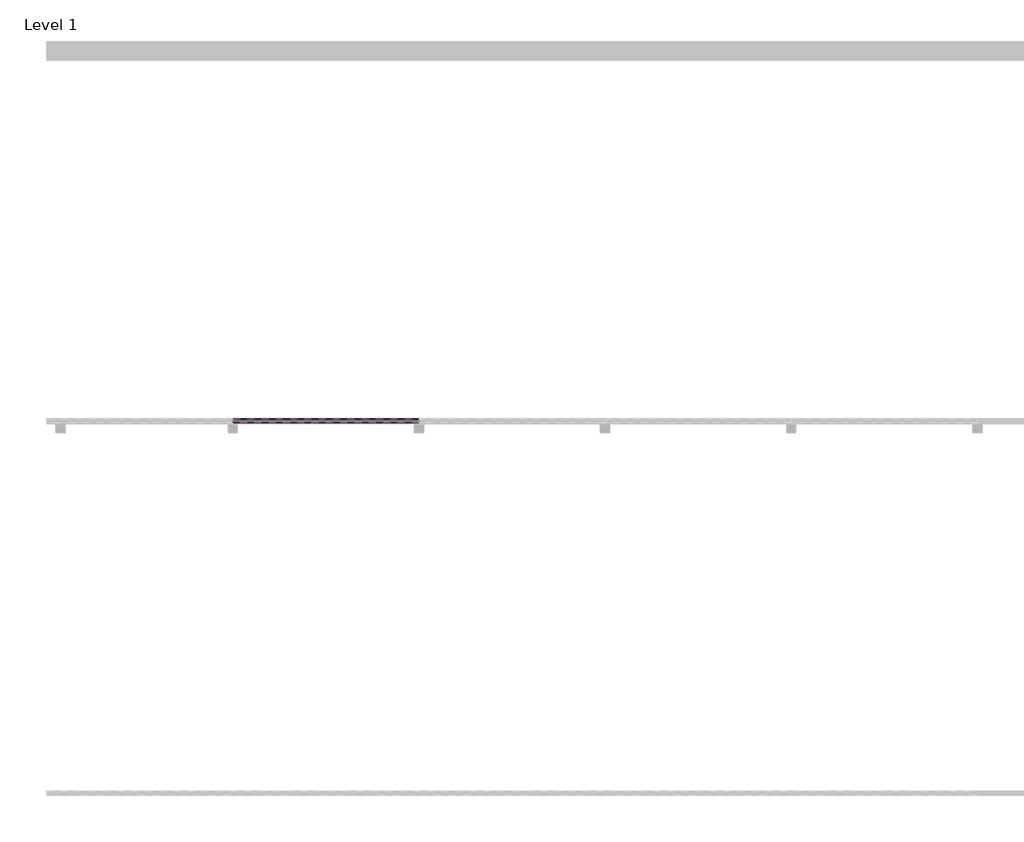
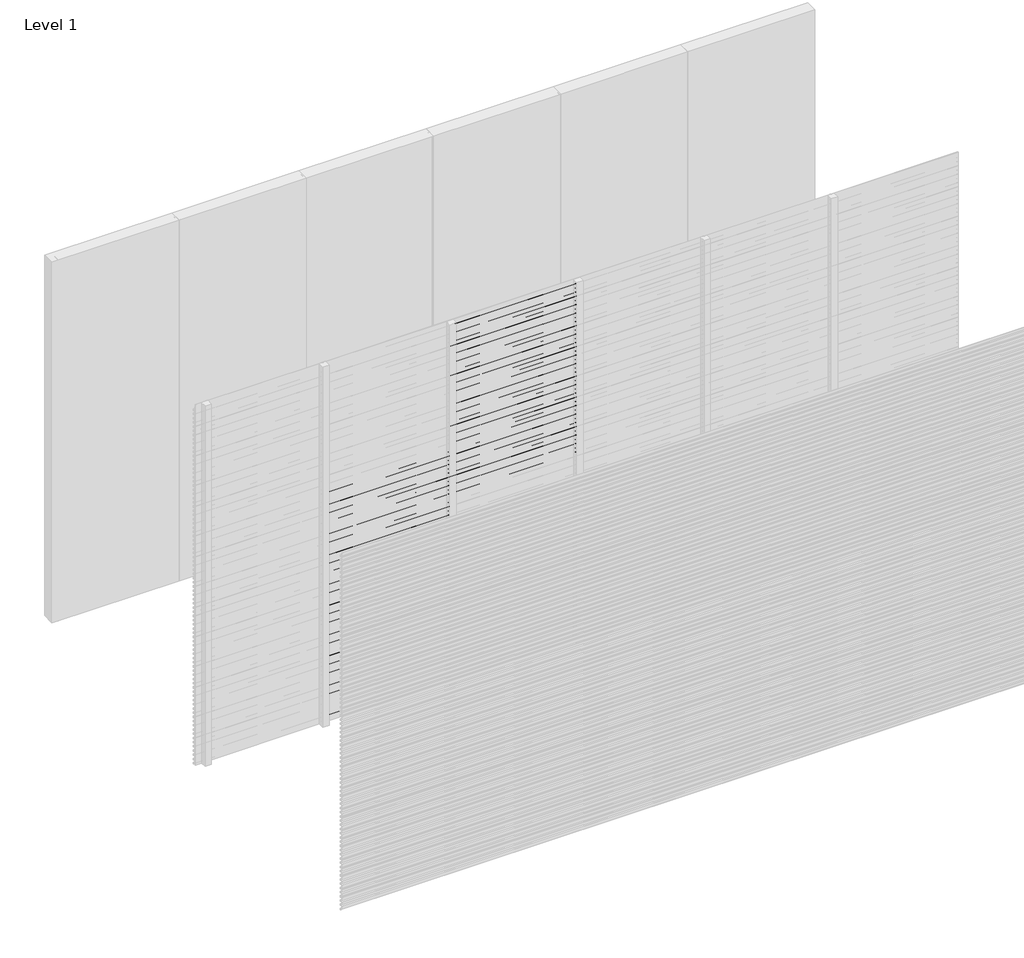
# One storey, part 10 of 25: 97 proxies.
"""IFC4 building model written with IfcOpenShell, lengths in millimetres."""

import ifcopenshell
import ifcopenshell.guid

model = None  # the IFC model being written
_history = None  # IfcOwnerHistory: only IFC2X3 demands one
_inside = {}  # id of a spatial element -> (the spatial element, [elements in it])
_under = {}  # id of a project, library or spatial element -> (it, [spatial elements below it])
_declared = {}  # id of a project -> (the project, [libraries it declares])
_typed = {}  # id of a type object -> (the type object, [elements of that type])
_made_of = {}  # id of a material, layer set ... -> (it, [elements and type objects made of it])


def new_model(schema):
    """Start an empty IFC model of exactly this schema.

    Asked for "IFC4X3", IfcOpenShell would pick the latest addendum, in which some entities
    have other attributes; the version numbers below select the first issue.
    IFC2X3 requires an IfcOwnerHistory on every rooted entity: one is made here for all.
    """
    global model, _history
    if schema == "IFC4X3":
        model = ifcopenshell.file(schema_version=(4, 3, 0, 0))
    else:
        model = ifcopenshell.file(schema=schema)
    _inside.clear()
    _under.clear()
    _declared.clear()
    _typed.clear()
    _made_of.clear()
    _history = None
    if model.schema == "IFC2X3":
        org = make("IfcOrganization", Name="unknown")
        user = make(
            "IfcPersonAndOrganization",
            ThePerson=make("IfcPerson", FamilyName="unknown"),
            TheOrganization=org,
        )
        app = make(
            "IfcApplication",
            ApplicationDeveloper=org,
            Version="unknown",
            ApplicationFullName="unknown",
            ApplicationIdentifier="unknown",
        )
        _history = make(
            "IfcOwnerHistory",
            OwningUser=user,
            OwningApplication=app,
            ChangeAction="ADDED",
            CreationDate=0,
        )
    return model


def make(cls, **values):
    """One entity of the class cls with the attributes given. An attribute that is None is left unset."""
    return model.create_entity(
        cls, **{name: value for name, value in values.items() if value is not None}
    )


def rooted(cls, **values):
    """An entity with a GlobalId (a new one), such as an element, a storey or a relation."""
    return make(cls, GlobalId=ifcopenshell.guid.new(), OwnerHistory=_history, **values)


def si_unit(unit_type, name, prefix=None):
    """IfcSIUnit, for example si_unit("LENGTHUNIT", "METRE", prefix="MILLI")."""
    return make("IfcSIUnit", UnitType=unit_type, Prefix=prefix, Name=name)


def assignment(units):
    """IfcUnitAssignment: the units of a project."""
    return None if units is None else make("IfcUnitAssignment", Units=units)


def point(xyz):
    """IfcCartesianPoint."""
    return None if xyz is None else make("IfcCartesianPoint", Coordinates=xyz)


def direction(xyz):
    """IfcDirection."""
    return None if xyz is None else make("IfcDirection", DirectionRatios=xyz)


def frame(location, z_axis=None, x_axis=None):
    """IfcAxis2Placement3D, a coordinate frame: its origin and axes. An axis left out is left unset."""
    return make(
        "IfcAxis2Placement3D",
        Location=point(location),
        Axis=direction(z_axis),
        RefDirection=direction(x_axis),
    )


def origin():
    """The frame at (0, 0, 0) with its axes left unset."""
    return frame((0.0, 0.0, 0.0))


def place(relative_to, where):
    """IfcLocalPlacement: puts the frame where relative to a parent placement (None: the world)."""
    return make(
        "IfcLocalPlacement", PlacementRelTo=relative_to, RelativePlacement=where
    )


def context(
    kind, dimensions, precision=None, world=None, true_north=None, identifier=None
):
    """IfcGeometricRepresentationContext, for example the 3D "Model" context."""
    return make(
        "IfcGeometricRepresentationContext",
        ContextIdentifier=identifier,
        ContextType=kind,
        CoordinateSpaceDimension=dimensions,
        Precision=precision,
        WorldCoordinateSystem=world,
        TrueNorth=true_north,
    )


def project(units=None, contexts=None):
    """IfcProject with its units and contexts."""
    return rooted(
        "IfcProject",
        Name="project",
        RepresentationContexts=contexts,
        UnitsInContext=assignment(units),
    )


def spatial(cls, under=None, at=None, **own):
    """A site, building, storey or space (cls), placed at a placement, below another one or the project."""
    s = rooted(cls, ObjectPlacement=at, **own)
    if under is not None:
        _under.setdefault(under.id(), (under, []))[1].append(s)
    return s


def polyline(points):
    """IfcPolyline through the points."""
    return make("IfcPolyline", Points=[point(p) for p in points])


def outline(outer, holes=None, kind="AREA"):
    """IfcArbitraryClosedProfileDef: a profile drawn as a closed curve; with holes, ...WithVoids."""
    if holes is None:
        return make("IfcArbitraryClosedProfileDef", ProfileType=kind, OuterCurve=outer)
    return make(
        "IfcArbitraryProfileDefWithVoids",
        ProfileType=kind,
        OuterCurve=outer,
        InnerCurves=holes,
    )


def extrude(swept, where, along, depth):
    """IfcExtrudedAreaSolid: the profile swept, set in the frame where, extruded along a direction by depth."""
    return make(
        "IfcExtrudedAreaSolid",
        SweptArea=swept,
        Position=where,
        ExtrudedDirection=direction(along),
        Depth=depth,
    )


def shape(context_of_items, identifier, shape_type, items):
    """IfcShapeRepresentation: the items that make up one representation, for example the "Body"."""
    return make(
        "IfcShapeRepresentation",
        ContextOfItems=context_of_items,
        RepresentationIdentifier=identifier,
        RepresentationType=shape_type,
        Items=items,
    )


def made_of(thing, what):
    """Note that an element or type object is made of a material, layer set ...; save() writes the relation."""
    if what is not None:
        _made_of.setdefault(what.id(), (what, []))[1].append(thing)
    return thing


def element(
    cls,
    number,
    at=None,
    inside=None,
    cuts=None,
    type_object=None,
    material=None,
    context=None,
    identifier="Body",
    shape_type=None,
    held_by="IfcProductDefinitionShape",
    body=None,
    shapes=None,
    **own,
):
    """One element of the class cls, such as IfcWall. Its Tag is "e" and its number.

    at: its placement. inside: the storey or other place that contains it. cuts: it is an
    opening in that element (IfcRelVoidsElement). A single representation is given by context,
    identifier, shape_type and body (its items); several are given by shapes. held_by: the class
    of the entity that holds the representations. save() writes the other relations.
    """
    e = rooted(cls, Tag="e%d" % number, ObjectPlacement=at, **own)
    if body is not None:
        shapes = [shape(context, identifier, shape_type, body)]
    if shapes is not None:
        e.Representation = make(held_by, Representations=shapes)
    if inside is not None:
        _inside.setdefault(inside.id(), (inside, []))[1].append(e)
    if cuts is not None:
        rooted(
            "IfcRelVoidsElement", RelatingBuildingElement=cuts, RelatedOpeningElement=e
        )
    if type_object is not None:
        _typed.setdefault(type_object.id(), (type_object, []))[1].append(e)
    return made_of(e, material)


def aggregate(whole, parts):
    """IfcRelAggregates: a whole, such as a stair, and the parts it consists of."""
    return rooted("IfcRelAggregates", RelatingObject=whole, RelatedObjects=parts)


def save(model, path):
    """Write the relations noted so far, then the file.

    IfcRelAggregates (storeys below a building ...), IfcRelContainedInSpatialStructure (elements
    in a storey), IfcRelDefinesByType, IfcRelAssociatesMaterial and IfcRelDeclares: one each for
    every whole, place, type object, material and project.
    """
    for whole, parts in _under.values():
        aggregate(whole, parts)
    for where, things in _inside.values():
        rooted(
            "IfcRelContainedInSpatialStructure",
            RelatedElements=things,
            RelatingStructure=where,
        )
    for kind, things in _typed.values():
        rooted("IfcRelDefinesByType", RelatedObjects=things, RelatingType=kind)
    for what, things in _made_of.values():
        rooted("IfcRelAssociatesMaterial", RelatedObjects=things, RelatingMaterial=what)
    for by, libraries in _declared.values():
        rooted("IfcRelDeclares", RelatingContext=by, RelatedDefinitions=libraries)
    model.write(path)


model = new_model("IFC4")

# Units and contexts
model_context = context("Model", 3, world=origin())
ifc_project = project(units=[si_unit("LENGTHUNIT", "METRE", prefix="MILLI")], contexts=[model_context])

# Site, building, storey
site = spatial("IfcSite", under=ifc_project)
building = spatial("IfcBuilding", under=site)
storey = spatial("IfcBuildingStorey", under=building, Name="Level 1", Elevation=0.0)

# Proxies
placement = place(None, origin())
element("IfcBuildingElementProxy", 1, Name="Wall Sweeps", at=placement, inside=storey, context=model_context, shape_type="SweptSolid", body=[
    extrude(outline(polyline([(-11995.0, 1960.0), (-11995.0, 1948.942893), (-11976.0, 1933.0), (-11976.0, 1920.0), (-11997.0, 1937.6210923), (-11997.0, 1960.0), (-11995.0, 1960.0)])), frame((1000.0, 0.0, 0.0), z_axis=(1.0, 0.0, 0.0), x_axis=(0.0, 1.0, 0.0)), (0.0, 0.0, 1.0), 1000.0),
])
element("IfcBuildingElementProxy", 2, Name="Wall Sweeps", at=placement, inside=storey, context=model_context, shape_type="SweptSolid", body=[
    extrude(outline(polyline([(-11995.0, 1925.0), (-11995.0, 1913.942893), (-11976.0, 1898.0), (-11976.0, 1885.0), (-11997.0, 1902.6210923), (-11997.0, 1925.0), (-11995.0, 1925.0)])), frame((1000.0, 0.0, 0.0), z_axis=(1.0, 0.0, 0.0), x_axis=(0.0, 1.0, 0.0)), (0.0, 0.0, 1.0), 1000.0),
])
element("IfcBuildingElementProxy", 3, Name="Wall Sweeps", at=placement, inside=storey, context=model_context, shape_type="SweptSolid", body=[
    extrude(outline(polyline([(-11995.0, 1890.0), (-11995.0, 1878.942893), (-11976.0, 1863.0), (-11976.0, 1850.0), (-11997.0, 1867.6210923), (-11997.0, 1890.0), (-11995.0, 1890.0)])), frame((1000.0, 0.0, 0.0), z_axis=(1.0, 0.0, 0.0), x_axis=(0.0, 1.0, 0.0)), (0.0, 0.0, 1.0), 1000.0),
])
element("IfcBuildingElementProxy", 4, Name="Wall Sweeps", at=placement, inside=storey, context=model_context, shape_type="SweptSolid", body=[
    extrude(outline(polyline([(-11995.0, 1855.0), (-11995.0, 1843.942893), (-11976.0, 1828.0), (-11976.0, 1815.0), (-11997.0, 1832.6210923), (-11997.0, 1855.0), (-11995.0, 1855.0)])), frame((1000.0, 0.0, 0.0), z_axis=(1.0, 0.0, 0.0), x_axis=(0.0, 1.0, 0.0)), (0.0, 0.0, 1.0), 1000.0),
])
element("IfcBuildingElementProxy", 5, Name="Wall Sweeps", at=placement, inside=storey, context=model_context, shape_type="SweptSolid", body=[
    extrude(outline(polyline([(-11995.0, 1820.0), (-11995.0, 1808.942893), (-11976.0, 1793.0), (-11976.0, 1780.0), (-11997.0, 1797.6210923), (-11997.0, 1820.0), (-11995.0, 1820.0)])), frame((1000.0, 0.0, 0.0), z_axis=(1.0, 0.0, 0.0), x_axis=(0.0, 1.0, 0.0)), (0.0, 0.0, 1.0), 1000.0),
])
element("IfcBuildingElementProxy", 6, Name="Wall Sweeps", at=placement, inside=storey, context=model_context, shape_type="SweptSolid", body=[
    extrude(outline(polyline([(-11995.0, 1785.0), (-11995.0, 1773.942893), (-11976.0, 1758.0), (-11976.0, 1745.0), (-11997.0, 1762.6210923), (-11997.0, 1785.0), (-11995.0, 1785.0)])), frame((1000.0, 0.0, 0.0), z_axis=(1.0, 0.0, 0.0), x_axis=(0.0, 1.0, 0.0)), (0.0, 0.0, 1.0), 1000.0),
])
element("IfcBuildingElementProxy", 7, Name="Wall Sweeps", at=placement, inside=storey, context=model_context, shape_type="SweptSolid", body=[
    extrude(outline(polyline([(-11995.0, 1750.0), (-11995.0, 1738.942893), (-11976.0, 1723.0), (-11976.0, 1710.0), (-11997.0, 1727.6210923), (-11997.0, 1750.0), (-11995.0, 1750.0)])), frame((1000.0, 0.0, 0.0), z_axis=(1.0, 0.0, 0.0), x_axis=(0.0, 1.0, 0.0)), (0.0, 0.0, 1.0), 1000.0),
])
element("IfcBuildingElementProxy", 8, Name="Wall Sweeps", at=placement, inside=storey, context=model_context, shape_type="SweptSolid", body=[
    extrude(outline(polyline([(-11995.0, 1715.0), (-11995.0, 1703.942893), (-11976.0, 1688.0), (-11976.0, 1675.0), (-11997.0, 1692.6210923), (-11997.0, 1715.0), (-11995.0, 1715.0)])), frame((1000.0, 0.0, 0.0), z_axis=(1.0, 0.0, 0.0), x_axis=(0.0, 1.0, 0.0)), (0.0, 0.0, 1.0), 1000.0),
])
element("IfcBuildingElementProxy", 9, Name="Wall Sweeps", at=placement, inside=storey, context=model_context, shape_type="SweptSolid", body=[
    extrude(outline(polyline([(-11995.0, 1680.0), (-11995.0, 1668.942893), (-11976.0, 1653.0), (-11976.0, 1640.0), (-11997.0, 1657.6210923), (-11997.0, 1680.0), (-11995.0, 1680.0)])), frame((1000.0, 0.0, 0.0), z_axis=(1.0, 0.0, 0.0), x_axis=(0.0, 1.0, 0.0)), (0.0, 0.0, 1.0), 1000.0),
])
element("IfcBuildingElementProxy", 10, Name="Wall Sweeps", at=placement, inside=storey, context=model_context, shape_type="SweptSolid", body=[
    extrude(outline(polyline([(-11995.0, 1645.0), (-11995.0, 1633.942893), (-11976.0, 1618.0), (-11976.0, 1605.0), (-11997.0, 1622.6210923), (-11997.0, 1645.0), (-11995.0, 1645.0)])), frame((1000.0, 0.0, 0.0), z_axis=(1.0, 0.0, 0.0), x_axis=(0.0, 1.0, 0.0)), (0.0, 0.0, 1.0), 1000.0),
])
element("IfcBuildingElementProxy", 11, Name="Wall Sweeps", at=placement, inside=storey, context=model_context, shape_type="SweptSolid", body=[
    extrude(outline(polyline([(-11995.0, 1610.0), (-11995.0, 1598.942893), (-11976.0, 1583.0), (-11976.0, 1570.0), (-11997.0, 1587.6210923), (-11997.0, 1610.0), (-11995.0, 1610.0)])), frame((1000.0, 0.0, 0.0), z_axis=(1.0, 0.0, 0.0), x_axis=(0.0, 1.0, 0.0)), (0.0, 0.0, 1.0), 1000.0),
])
element("IfcBuildingElementProxy", 12, Name="Wall Sweeps", at=placement, inside=storey, context=model_context, shape_type="SweptSolid", body=[
    extrude(outline(polyline([(-11995.0, 1575.0), (-11995.0, 1563.942893), (-11976.0, 1548.0), (-11976.0, 1535.0), (-11997.0, 1552.6210923), (-11997.0, 1575.0), (-11995.0, 1575.0)])), frame((1000.0, 0.0, 0.0), z_axis=(1.0, 0.0, 0.0), x_axis=(0.0, 1.0, 0.0)), (0.0, 0.0, 1.0), 1000.0),
])
element("IfcBuildingElementProxy", 13, Name="Wall Sweeps", at=placement, inside=storey, context=model_context, shape_type="SweptSolid", body=[
    extrude(outline(polyline([(-11995.0, 1540.0), (-11995.0, 1528.942893), (-11976.0, 1513.0), (-11976.0, 1500.0), (-11997.0, 1517.6210923), (-11997.0, 1540.0), (-11995.0, 1540.0)])), frame((1000.0, 0.0, 0.0), z_axis=(1.0, 0.0, 0.0), x_axis=(0.0, 1.0, 0.0)), (0.0, 0.0, 1.0), 1000.0),
])
element("IfcBuildingElementProxy", 14, Name="Wall Sweeps", at=placement, inside=storey, context=model_context, shape_type="SweptSolid", body=[
    extrude(outline(polyline([(-11995.0, 1505.0), (-11995.0, 1493.942893), (-11976.0, 1478.0), (-11976.0, 1465.0), (-11997.0, 1482.6210923), (-11997.0, 1505.0), (-11995.0, 1505.0)])), frame((1000.0, 0.0, 0.0), z_axis=(1.0, 0.0, 0.0), x_axis=(0.0, 1.0, 0.0)), (0.0, 0.0, 1.0), 1000.0),
])
element("IfcBuildingElementProxy", 15, Name="Wall Sweeps", at=placement, inside=storey, context=model_context, shape_type="SweptSolid", body=[
    extrude(outline(polyline([(-11995.0, 1470.0), (-11995.0, 1458.942893), (-11976.0, 1443.0), (-11976.0, 1430.0), (-11997.0, 1447.6210923), (-11997.0, 1470.0), (-11995.0, 1470.0)])), frame((1000.0, 0.0, 0.0), z_axis=(1.0, 0.0, 0.0), x_axis=(0.0, 1.0, 0.0)), (0.0, 0.0, 1.0), 1000.0),
])
element("IfcBuildingElementProxy", 16, Name="Wall Sweeps", at=placement, inside=storey, context=model_context, shape_type="SweptSolid", body=[
    extrude(outline(polyline([(-11995.0, 1435.0), (-11995.0, 1423.942893), (-11976.0, 1408.0), (-11976.0, 1395.0), (-11997.0, 1412.6210923), (-11997.0, 1435.0), (-11995.0, 1435.0)])), frame((1000.0, 0.0, 0.0), z_axis=(1.0, 0.0, 0.0), x_axis=(0.0, 1.0, 0.0)), (0.0, 0.0, 1.0), 1000.0),
])
element("IfcBuildingElementProxy", 17, Name="Wall Sweeps", at=placement, inside=storey, context=model_context, shape_type="SweptSolid", body=[
    extrude(outline(polyline([(-11995.0, 1400.0), (-11995.0, 1388.942893), (-11976.0, 1373.0), (-11976.0, 1360.0), (-11997.0, 1377.6210923), (-11997.0, 1400.0), (-11995.0, 1400.0)])), frame((1000.0, 0.0, 0.0), z_axis=(1.0, 0.0, 0.0), x_axis=(0.0, 1.0, 0.0)), (0.0, 0.0, 1.0), 1000.0),
])
element("IfcBuildingElementProxy", 18, Name="Wall Sweeps", at=placement, inside=storey, context=model_context, shape_type="SweptSolid", body=[
    extrude(outline(polyline([(-11995.0, 1365.0), (-11995.0, 1353.942893), (-11976.0, 1338.0), (-11976.0, 1325.0), (-11997.0, 1342.6210923), (-11997.0, 1365.0), (-11995.0, 1365.0)])), frame((1000.0, 0.0, 0.0), z_axis=(1.0, 0.0, 0.0), x_axis=(0.0, 1.0, 0.0)), (0.0, 0.0, 1.0), 1000.0),
])
element("IfcBuildingElementProxy", 19, Name="Wall Sweeps", at=placement, inside=storey, context=model_context, shape_type="SweptSolid", body=[
    extrude(outline(polyline([(-11995.0, 1330.0), (-11995.0, 1318.942893), (-11976.0, 1303.0), (-11976.0, 1290.0), (-11997.0, 1307.6210923), (-11997.0, 1330.0), (-11995.0, 1330.0)])), frame((1000.0, 0.0, 0.0), z_axis=(1.0, 0.0, 0.0), x_axis=(0.0, 1.0, 0.0)), (0.0, 0.0, 1.0), 1000.0),
])
element("IfcBuildingElementProxy", 20, Name="Wall Sweeps", at=placement, inside=storey, context=model_context, shape_type="SweptSolid", body=[
    extrude(outline(polyline([(-11995.0, 1295.0), (-11995.0, 1283.942893), (-11976.0, 1268.0), (-11976.0, 1255.0), (-11997.0, 1272.6210923), (-11997.0, 1295.0), (-11995.0, 1295.0)])), frame((1000.0, 0.0, 0.0), z_axis=(1.0, 0.0, 0.0), x_axis=(0.0, 1.0, 0.0)), (0.0, 0.0, 1.0), 1000.0),
])
element("IfcBuildingElementProxy", 21, Name="Wall Sweeps", at=placement, inside=storey, context=model_context, shape_type="SweptSolid", body=[
    extrude(outline(polyline([(-11995.0, 1260.0), (-11995.0, 1248.942893), (-11976.0, 1233.0), (-11976.0, 1220.0), (-11997.0, 1237.6210923), (-11997.0, 1260.0), (-11995.0, 1260.0)])), frame((1000.0, 0.0, 0.0), z_axis=(1.0, 0.0, 0.0), x_axis=(0.0, 1.0, 0.0)), (0.0, 0.0, 1.0), 1000.0),
])
element("IfcBuildingElementProxy", 22, Name="Wall Sweeps", at=placement, inside=storey, context=model_context, shape_type="SweptSolid", body=[
    extrude(outline(polyline([(-11995.0, 1225.0), (-11995.0, 1213.942893), (-11976.0, 1198.0), (-11976.0, 1185.0), (-11997.0, 1202.6210923), (-11997.0, 1225.0), (-11995.0, 1225.0)])), frame((1000.0, 0.0, 0.0), z_axis=(1.0, 0.0, 0.0), x_axis=(0.0, 1.0, 0.0)), (0.0, 0.0, 1.0), 1000.0),
])
element("IfcBuildingElementProxy", 23, Name="Wall Sweeps", at=placement, inside=storey, context=model_context, shape_type="SweptSolid", body=[
    extrude(outline(polyline([(-11995.0, 1190.0), (-11995.0, 1178.942893), (-11976.0, 1163.0), (-11976.0, 1150.0), (-11997.0, 1167.6210923), (-11997.0, 1190.0), (-11995.0, 1190.0)])), frame((1000.0, 0.0, 0.0), z_axis=(1.0, 0.0, 0.0), x_axis=(0.0, 1.0, 0.0)), (0.0, 0.0, 1.0), 1000.0),
])
element("IfcBuildingElementProxy", 24, Name="Wall Sweeps", at=placement, inside=storey, context=model_context, shape_type="SweptSolid", body=[
    extrude(outline(polyline([(-11995.0, 1155.0), (-11995.0, 1143.942893), (-11976.0, 1128.0), (-11976.0, 1115.0), (-11997.0, 1132.6210923), (-11997.0, 1155.0), (-11995.0, 1155.0)])), frame((1000.0, 0.0, 0.0), z_axis=(1.0, 0.0, 0.0), x_axis=(0.0, 1.0, 0.0)), (0.0, 0.0, 1.0), 1000.0),
])
element("IfcBuildingElementProxy", 25, Name="Wall Sweeps", at=placement, inside=storey, context=model_context, shape_type="SweptSolid", body=[
    extrude(outline(polyline([(-11995.0, 1120.0), (-11995.0, 1108.942893), (-11976.0, 1093.0), (-11976.0, 1080.0), (-11997.0, 1097.6210923), (-11997.0, 1120.0), (-11995.0, 1120.0)])), frame((1000.0, 0.0, 0.0), z_axis=(1.0, 0.0, 0.0), x_axis=(0.0, 1.0, 0.0)), (0.0, 0.0, 1.0), 1000.0),
])
element("IfcBuildingElementProxy", 26, Name="Wall Sweeps", at=placement, inside=storey, context=model_context, shape_type="SweptSolid", body=[
    extrude(outline(polyline([(-11995.0, 1085.0), (-11995.0, 1073.942893), (-11976.0, 1058.0), (-11976.0, 1045.0), (-11997.0, 1062.6210923), (-11997.0, 1085.0), (-11995.0, 1085.0)])), frame((1000.0, 0.0, 0.0), z_axis=(1.0, 0.0, 0.0), x_axis=(0.0, 1.0, 0.0)), (0.0, 0.0, 1.0), 1000.0),
])
element("IfcBuildingElementProxy", 27, Name="Wall Sweeps", at=placement, inside=storey, context=model_context, shape_type="SweptSolid", body=[
    extrude(outline(polyline([(-11995.0, 1050.0), (-11995.0, 1038.942893), (-11976.0, 1023.0), (-11976.0, 1010.0), (-11997.0, 1027.6210923), (-11997.0, 1050.0), (-11995.0, 1050.0)])), frame((1000.0, 0.0, 0.0), z_axis=(1.0, 0.0, 0.0), x_axis=(0.0, 1.0, 0.0)), (0.0, 0.0, 1.0), 1000.0),
])
element("IfcBuildingElementProxy", 28, Name="Wall Sweeps", at=placement, inside=storey, context=model_context, shape_type="SweptSolid", body=[
    extrude(outline(polyline([(-11995.0, 1015.0), (-11995.0, 1003.942893), (-11976.0, 988.0), (-11976.0, 975.0), (-11997.0, 992.6210923), (-11997.0, 1015.0), (-11995.0, 1015.0)])), frame((1000.0, 0.0, 0.0), z_axis=(1.0, 0.0, 0.0), x_axis=(0.0, 1.0, 0.0)), (0.0, 0.0, 1.0), 1000.0),
])
element("IfcBuildingElementProxy", 29, Name="Wall Sweeps", at=placement, inside=storey, context=model_context, shape_type="SweptSolid", body=[
    extrude(outline(polyline([(-11995.0, 980.0), (-11995.0, 968.942893), (-11976.0, 953.0), (-11976.0, 940.0), (-11997.0, 957.6210923), (-11997.0, 980.0), (-11995.0, 980.0)])), frame((1000.0, 0.0, 0.0), z_axis=(1.0, 0.0, 0.0), x_axis=(0.0, 1.0, 0.0)), (0.0, 0.0, 1.0), 1000.0),
])
element("IfcBuildingElementProxy", 30, Name="Wall Sweeps", at=placement, inside=storey, context=model_context, shape_type="SweptSolid", body=[
    extrude(outline(polyline([(-11995.0, 945.0), (-11995.0, 933.942893), (-11976.0, 918.0), (-11976.0, 905.0), (-11997.0, 922.6210923), (-11997.0, 945.0), (-11995.0, 945.0)])), frame((1000.0, 0.0, 0.0), z_axis=(1.0, 0.0, 0.0), x_axis=(0.0, 1.0, 0.0)), (0.0, 0.0, 1.0), 1000.0),
])
element("IfcBuildingElementProxy", 31, Name="Wall Sweeps", at=placement, inside=storey, context=model_context, shape_type="SweptSolid", body=[
    extrude(outline(polyline([(-11995.0, 910.0), (-11995.0, 898.942893), (-11976.0, 883.0), (-11976.0, 870.0), (-11997.0, 887.6210923), (-11997.0, 910.0), (-11995.0, 910.0)])), frame((1000.0, 0.0, 0.0), z_axis=(1.0, 0.0, 0.0), x_axis=(0.0, 1.0, 0.0)), (0.0, 0.0, 1.0), 1000.0),
])
element("IfcBuildingElementProxy", 32, Name="Wall Sweeps", at=placement, inside=storey, context=model_context, shape_type="SweptSolid", body=[
    extrude(outline(polyline([(-11995.0, 875.0), (-11995.0, 863.942893), (-11976.0, 848.0), (-11976.0, 835.0), (-11997.0, 852.6210923), (-11997.0, 875.0), (-11995.0, 875.0)])), frame((1000.0, 0.0, 0.0), z_axis=(1.0, 0.0, 0.0), x_axis=(0.0, 1.0, 0.0)), (0.0, 0.0, 1.0), 1000.0),
])
element("IfcBuildingElementProxy", 33, Name="Wall Sweeps", at=placement, inside=storey, context=model_context, shape_type="SweptSolid", body=[
    extrude(outline(polyline([(-11995.0, 840.0), (-11995.0, 828.942893), (-11976.0, 813.0), (-11976.0, 800.0), (-11997.0, 817.6210923), (-11997.0, 840.0), (-11995.0, 840.0)])), frame((1000.0, 0.0, 0.0), z_axis=(1.0, 0.0, 0.0), x_axis=(0.0, 1.0, 0.0)), (0.0, 0.0, 1.0), 1000.0),
])
element("IfcBuildingElementProxy", 34, Name="Wall Sweeps", at=placement, inside=storey, context=model_context, shape_type="SweptSolid", body=[
    extrude(outline(polyline([(-11995.0, 805.0), (-11995.0, 793.942893), (-11976.0, 778.0), (-11976.0, 765.0), (-11997.0, 782.6210923), (-11997.0, 805.0), (-11995.0, 805.0)])), frame((1000.0, 0.0, 0.0), z_axis=(1.0, 0.0, 0.0), x_axis=(0.0, 1.0, 0.0)), (0.0, 0.0, 1.0), 1000.0),
])
element("IfcBuildingElementProxy", 35, Name="Wall Sweeps", at=placement, inside=storey, context=model_context, shape_type="SweptSolid", body=[
    extrude(outline(polyline([(-11995.0, 770.0), (-11995.0, 758.942893), (-11976.0, 743.0), (-11976.0, 730.0), (-11997.0, 747.6210923), (-11997.0, 770.0), (-11995.0, 770.0)])), frame((1000.0, 0.0, 0.0), z_axis=(1.0, 0.0, 0.0), x_axis=(0.0, 1.0, 0.0)), (0.0, 0.0, 1.0), 1000.0),
])
element("IfcBuildingElementProxy", 36, Name="Wall Sweeps", at=placement, inside=storey, context=model_context, shape_type="SweptSolid", body=[
    extrude(outline(polyline([(-11995.0, 735.0), (-11995.0, 723.942893), (-11976.0, 708.0), (-11976.0, 695.0), (-11997.0, 712.6210923), (-11997.0, 735.0), (-11995.0, 735.0)])), frame((1000.0, 0.0, 0.0), z_axis=(1.0, 0.0, 0.0), x_axis=(0.0, 1.0, 0.0)), (0.0, 0.0, 1.0), 1000.0),
])
element("IfcBuildingElementProxy", 37, Name="Wall Sweeps", at=placement, inside=storey, context=model_context, shape_type="SweptSolid", body=[
    extrude(outline(polyline([(-11995.0, 700.0), (-11995.0, 688.942893), (-11976.0, 673.0), (-11976.0, 660.0), (-11997.0, 677.6210923), (-11997.0, 700.0), (-11995.0, 700.0)])), frame((1000.0, 0.0, 0.0), z_axis=(1.0, 0.0, 0.0), x_axis=(0.0, 1.0, 0.0)), (0.0, 0.0, 1.0), 1000.0),
])
element("IfcBuildingElementProxy", 38, Name="Wall Sweeps", at=placement, inside=storey, context=model_context, shape_type="SweptSolid", body=[
    extrude(outline(polyline([(-11995.0, 665.0), (-11995.0, 653.942893), (-11976.0, 638.0), (-11976.0, 625.0), (-11997.0, 642.6210923), (-11997.0, 665.0), (-11995.0, 665.0)])), frame((1000.0, 0.0, 0.0), z_axis=(1.0, 0.0, 0.0), x_axis=(0.0, 1.0, 0.0)), (0.0, 0.0, 1.0), 1000.0),
])
element("IfcBuildingElementProxy", 39, Name="Wall Sweeps", at=placement, inside=storey, context=model_context, shape_type="SweptSolid", body=[
    extrude(outline(polyline([(-11995.0, 630.0), (-11995.0, 618.942893), (-11976.0, 603.0), (-11976.0, 590.0), (-11997.0, 607.6210923), (-11997.0, 630.0), (-11995.0, 630.0)])), frame((1000.0, 0.0, 0.0), z_axis=(1.0, 0.0, 0.0), x_axis=(0.0, 1.0, 0.0)), (0.0, 0.0, 1.0), 1000.0),
])
element("IfcBuildingElementProxy", 40, Name="Wall Sweeps", at=placement, inside=storey, context=model_context, shape_type="SweptSolid", body=[
    extrude(outline(polyline([(-11995.0, 595.0), (-11995.0, 583.942893), (-11976.0, 568.0), (-11976.0, 555.0), (-11997.0, 572.6210923), (-11997.0, 595.0), (-11995.0, 595.0)])), frame((1000.0, 0.0, 0.0), z_axis=(1.0, 0.0, 0.0), x_axis=(0.0, 1.0, 0.0)), (0.0, 0.0, 1.0), 1000.0),
])
element("IfcBuildingElementProxy", 41, Name="Wall Sweeps", at=placement, inside=storey, context=model_context, shape_type="SweptSolid", body=[
    extrude(outline(polyline([(-11995.0, 560.0), (-11995.0, 548.942893), (-11976.0, 533.0), (-11976.0, 520.0), (-11997.0, 537.6210923), (-11997.0, 560.0), (-11995.0, 560.0)])), frame((1000.0, 0.0, 0.0), z_axis=(1.0, 0.0, 0.0), x_axis=(0.0, 1.0, 0.0)), (0.0, 0.0, 1.0), 1000.0),
])
element("IfcBuildingElementProxy", 42, Name="Wall Sweeps", at=placement, inside=storey, context=model_context, shape_type="SweptSolid", body=[
    extrude(outline(polyline([(-11995.0, 525.0), (-11995.0, 513.942893), (-11976.0, 498.0), (-11976.0, 485.0), (-11997.0, 502.6210923), (-11997.0, 525.0), (-11995.0, 525.0)])), frame((1000.0, 0.0, 0.0), z_axis=(1.0, 0.0, 0.0), x_axis=(0.0, 1.0, 0.0)), (0.0, 0.0, 1.0), 1000.0),
])
element("IfcBuildingElementProxy", 43, Name="Wall Sweeps", at=placement, inside=storey, context=model_context, shape_type="SweptSolid", body=[
    extrude(outline(polyline([(-11995.0, 490.0), (-11995.0, 478.942893), (-11976.0, 463.0), (-11976.0, 450.0), (-11997.0, 467.6210923), (-11997.0, 490.0), (-11995.0, 490.0)])), frame((1000.0, 0.0, 0.0), z_axis=(1.0, 0.0, 0.0), x_axis=(0.0, 1.0, 0.0)), (0.0, 0.0, 1.0), 1000.0),
])
element("IfcBuildingElementProxy", 44, Name="Wall Sweeps", at=placement, inside=storey, context=model_context, shape_type="SweptSolid", body=[
    extrude(outline(polyline([(-11995.0, 455.0), (-11995.0, 443.942893), (-11976.0, 428.0), (-11976.0, 415.0), (-11997.0, 432.6210923), (-11997.0, 455.0), (-11995.0, 455.0)])), frame((1000.0, 0.0, 0.0), z_axis=(1.0, 0.0, 0.0), x_axis=(0.0, 1.0, 0.0)), (0.0, 0.0, 1.0), 1000.0),
])
element("IfcBuildingElementProxy", 45, Name="Wall Sweeps", at=placement, inside=storey, context=model_context, shape_type="SweptSolid", body=[
    extrude(outline(polyline([(-11995.0, 420.0), (-11995.0, 408.942893), (-11976.0, 393.0), (-11976.0, 380.0), (-11997.0, 397.6210923), (-11997.0, 420.0), (-11995.0, 420.0)])), frame((1000.0, 0.0, 0.0), z_axis=(1.0, 0.0, 0.0), x_axis=(0.0, 1.0, 0.0)), (0.0, 0.0, 1.0), 1000.0),
])
element("IfcBuildingElementProxy", 46, Name="Wall Sweeps", at=placement, inside=storey, context=model_context, shape_type="SweptSolid", body=[
    extrude(outline(polyline([(-11995.0, 385.0), (-11995.0, 373.942893), (-11976.0, 358.0), (-11976.0, 345.0), (-11997.0, 362.6210923), (-11997.0, 385.0), (-11995.0, 385.0)])), frame((1000.0, 0.0, 0.0), z_axis=(1.0, 0.0, 0.0), x_axis=(0.0, 1.0, 0.0)), (0.0, 0.0, 1.0), 1000.0),
])
element("IfcBuildingElementProxy", 47, Name="Wall Sweeps", at=placement, inside=storey, context=model_context, shape_type="SweptSolid", body=[
    extrude(outline(polyline([(-11995.0, 350.0), (-11995.0, 338.942893), (-11976.0, 323.0), (-11976.0, 310.0), (-11997.0, 327.6210923), (-11997.0, 350.0), (-11995.0, 350.0)])), frame((1000.0, 0.0, 0.0), z_axis=(1.0, 0.0, 0.0), x_axis=(0.0, 1.0, 0.0)), (0.0, 0.0, 1.0), 1000.0),
])
element("IfcBuildingElementProxy", 48, Name="Wall Sweeps", at=placement, inside=storey, context=model_context, shape_type="SweptSolid", body=[
    extrude(outline(polyline([(-11995.0, 315.0), (-11995.0, 303.942893), (-11976.0, 288.0), (-11976.0, 275.0), (-11997.0, 292.6210923), (-11997.0, 315.0), (-11995.0, 315.0)])), frame((1000.0, 0.0, 0.0), z_axis=(1.0, 0.0, 0.0), x_axis=(0.0, 1.0, 0.0)), (0.0, 0.0, 1.0), 1000.0),
])
element("IfcBuildingElementProxy", 49, Name="Wall Sweeps", at=placement, inside=storey, context=model_context, shape_type="SweptSolid", body=[
    extrude(outline(polyline([(-11995.0, 280.0), (-11995.0, 268.942893), (-11976.0, 253.0), (-11976.0, 240.0), (-11997.0, 257.6210923), (-11997.0, 280.0), (-11995.0, 280.0)])), frame((1000.0, 0.0, 0.0), z_axis=(1.0, 0.0, 0.0), x_axis=(0.0, 1.0, 0.0)), (0.0, 0.0, 1.0), 1000.0),
])
element("IfcBuildingElementProxy", 50, Name="Wall Sweeps", at=placement, inside=storey, context=model_context, shape_type="SweptSolid", body=[
    extrude(outline(polyline([(-11995.0, 245.0), (-11995.0, 233.942893), (-11976.0, 218.0), (-11976.0, 205.0), (-11997.0, 222.6210923), (-11997.0, 245.0), (-11995.0, 245.0)])), frame((1000.0, 0.0, 0.0), z_axis=(1.0, 0.0, 0.0), x_axis=(0.0, 1.0, 0.0)), (0.0, 0.0, 1.0), 1000.0),
])
element("IfcBuildingElementProxy", 51, Name="Wall Sweeps", at=placement, inside=storey, context=model_context, shape_type="SweptSolid", body=[
    extrude(outline(polyline([(-11995.0, 210.0), (-11995.0, 198.942893), (-11976.0, 183.0), (-11976.0, 170.0), (-11997.0, 187.6210923), (-11997.0, 210.0), (-11995.0, 210.0)])), frame((1000.0, 0.0, 0.0), z_axis=(1.0, 0.0, 0.0), x_axis=(0.0, 1.0, 0.0)), (0.0, 0.0, 1.0), 1000.0),
])
element("IfcBuildingElementProxy", 52, Name="Wall Sweeps", at=placement, inside=storey, context=model_context, shape_type="SweptSolid", body=[
    extrude(outline(polyline([(-11995.0, 175.0), (-11995.0, 163.942893), (-11976.0, 148.0), (-11976.0, 135.0), (-11997.0, 152.6210923), (-11997.0, 175.0), (-11995.0, 175.0)])), frame((1000.0, 0.0, 0.0), z_axis=(1.0, 0.0, 0.0), x_axis=(0.0, 1.0, 0.0)), (0.0, 0.0, 1.0), 1000.0),
])
element("IfcBuildingElementProxy", 53, Name="Wall Sweeps", at=placement, inside=storey, context=model_context, shape_type="SweptSolid", body=[
    extrude(outline(polyline([(-11995.0, 140.0), (-11995.0, 128.942893), (-11976.0, 113.0), (-11976.0, 100.0), (-11997.0, 117.6210923), (-11997.0, 140.0), (-11995.0, 140.0)])), frame((1000.0, 0.0, 0.0), z_axis=(1.0, 0.0, 0.0), x_axis=(0.0, 1.0, 0.0)), (0.0, 0.0, 1.0), 1000.0),
])
element("IfcBuildingElementProxy", 54, Name="Wall Sweeps", at=placement, inside=storey, context=model_context, shape_type="SweptSolid", body=[
    extrude(outline(polyline([(-11995.0, 105.0), (-11995.0, 93.942893), (-11976.0, 78.0), (-11976.0, 65.0), (-11997.0, 82.6210923), (-11997.0, 105.0), (-11995.0, 105.0)])), frame((1000.0, 0.0, 0.0), z_axis=(1.0, 0.0, 0.0), x_axis=(0.0, 1.0, 0.0)), (0.0, 0.0, 1.0), 1000.0),
])
element("IfcBuildingElementProxy", 55, Name="Wall Sweeps", at=placement, inside=storey, context=model_context, shape_type="SweptSolid", body=[
    extrude(outline(polyline([(-11995.0, 70.0), (-11995.0, 58.942893), (-11976.0, 43.0), (-11976.0, 30.0), (-11997.0, 47.6210923), (-11997.0, 70.0), (-11995.0, 70.0)])), frame((1000.0, 0.0, 0.0), z_axis=(1.0, 0.0, 0.0), x_axis=(0.0, 1.0, 0.0)), (0.0, 0.0, 1.0), 1000.0),
])
element("IfcBuildingElementProxy", 56, Name="Wall Sweeps", at=placement, inside=storey, context=model_context, shape_type="SweptSolid", body=[
    extrude(outline(polyline([(-11995.0, 35.0), (-11995.0, 23.942893), (-11976.0, 8.0), (-11976.0, -5.0), (-11997.0, 12.6210923), (-11997.0, 35.0), (-11995.0, 35.0)])), frame((1000.0, 0.0, 0.0), z_axis=(1.0, 0.0, 0.0), x_axis=(0.0, 1.0, 0.0)), (0.0, 0.0, 1.0), 1000.0),
])
element("IfcBuildingElementProxy", 57, Name="Wall Sweeps", at=placement, inside=storey, context=model_context, shape_type="SweptSolid", body=[
    extrude(outline(polyline([(-11995.0, 2975.0), (-11995.0, 2963.942893), (-11976.0, 2948.0), (-11976.0, 2935.0), (-11997.0, 2952.6210923), (-11997.0, 2975.0), (-11995.0, 2975.0)])), frame((2000.0, 0.0, 0.0), z_axis=(1.0, 0.0, 0.0), x_axis=(0.0, 1.0, 0.0)), (0.0, 0.0, 1.0), 1000.0),
])
element("IfcBuildingElementProxy", 58, Name="Wall Sweeps", at=placement, inside=storey, context=model_context, shape_type="SweptSolid", body=[
    extrude(outline(polyline([(-11995.0, 2940.0), (-11995.0, 2928.942893), (-11976.0, 2913.0), (-11976.0, 2900.0), (-11997.0, 2917.6210923), (-11997.0, 2940.0), (-11995.0, 2940.0)])), frame((2000.0, 0.0, 0.0), z_axis=(1.0, 0.0, 0.0), x_axis=(0.0, 1.0, 0.0)), (0.0, 0.0, 1.0), 1000.0),
])
element("IfcBuildingElementProxy", 59, Name="Wall Sweeps", at=placement, inside=storey, context=model_context, shape_type="SweptSolid", body=[
    extrude(outline(polyline([(-11995.0, 2905.0), (-11995.0, 2893.942893), (-11976.0, 2878.0), (-11976.0, 2865.0), (-11997.0, 2882.6210923), (-11997.0, 2905.0), (-11995.0, 2905.0)])), frame((2000.0, 0.0, 0.0), z_axis=(1.0, 0.0, 0.0), x_axis=(0.0, 1.0, 0.0)), (0.0, 0.0, 1.0), 1000.0),
])
element("IfcBuildingElementProxy", 60, Name="Wall Sweeps", at=placement, inside=storey, context=model_context, shape_type="SweptSolid", body=[
    extrude(outline(polyline([(-11995.0, 2870.0), (-11995.0, 2858.942893), (-11976.0, 2843.0), (-11976.0, 2830.0), (-11997.0, 2847.6210923), (-11997.0, 2870.0), (-11995.0, 2870.0)])), frame((2000.0, 0.0, 0.0), z_axis=(1.0, 0.0, 0.0), x_axis=(0.0, 1.0, 0.0)), (0.0, 0.0, 1.0), 1000.0),
])
element("IfcBuildingElementProxy", 61, Name="Wall Sweeps", at=placement, inside=storey, context=model_context, shape_type="SweptSolid", body=[
    extrude(outline(polyline([(-11995.0, 2835.0), (-11995.0, 2823.942893), (-11976.0, 2808.0), (-11976.0, 2795.0), (-11997.0, 2812.6210923), (-11997.0, 2835.0), (-11995.0, 2835.0)])), frame((2000.0, 0.0, 0.0), z_axis=(1.0, 0.0, 0.0), x_axis=(0.0, 1.0, 0.0)), (0.0, 0.0, 1.0), 1000.0),
])
element("IfcBuildingElementProxy", 62, Name="Wall Sweeps", at=placement, inside=storey, context=model_context, shape_type="SweptSolid", body=[
    extrude(outline(polyline([(-11995.0, 2800.0), (-11995.0, 2788.942893), (-11976.0, 2773.0), (-11976.0, 2760.0), (-11997.0, 2777.6210923), (-11997.0, 2800.0), (-11995.0, 2800.0)])), frame((2000.0, 0.0, 0.0), z_axis=(1.0, 0.0, 0.0), x_axis=(0.0, 1.0, 0.0)), (0.0, 0.0, 1.0), 1000.0),
])
element("IfcBuildingElementProxy", 63, Name="Wall Sweeps", at=placement, inside=storey, context=model_context, shape_type="SweptSolid", body=[
    extrude(outline(polyline([(-11995.0, 2765.0), (-11995.0, 2753.942893), (-11976.0, 2738.0), (-11976.0, 2725.0), (-11997.0, 2742.6210923), (-11997.0, 2765.0), (-11995.0, 2765.0)])), frame((2000.0, 0.0, 0.0), z_axis=(1.0, 0.0, 0.0), x_axis=(0.0, 1.0, 0.0)), (0.0, 0.0, 1.0), 1000.0),
])
element("IfcBuildingElementProxy", 64, Name="Wall Sweeps", at=placement, inside=storey, context=model_context, shape_type="SweptSolid", body=[
    extrude(outline(polyline([(-11995.0, 2730.0), (-11995.0, 2718.942893), (-11976.0, 2703.0), (-11976.0, 2690.0), (-11997.0, 2707.6210923), (-11997.0, 2730.0), (-11995.0, 2730.0)])), frame((2000.0, 0.0, 0.0), z_axis=(1.0, 0.0, 0.0), x_axis=(0.0, 1.0, 0.0)), (0.0, 0.0, 1.0), 1000.0),
])
element("IfcBuildingElementProxy", 65, Name="Wall Sweeps", at=placement, inside=storey, context=model_context, shape_type="SweptSolid", body=[
    extrude(outline(polyline([(-11995.0, 2695.0), (-11995.0, 2683.942893), (-11976.0, 2668.0), (-11976.0, 2655.0), (-11997.0, 2672.6210923), (-11997.0, 2695.0), (-11995.0, 2695.0)])), frame((2000.0, 0.0, 0.0), z_axis=(1.0, 0.0, 0.0), x_axis=(0.0, 1.0, 0.0)), (0.0, 0.0, 1.0), 1000.0),
])
element("IfcBuildingElementProxy", 66, Name="Wall Sweeps", at=placement, inside=storey, context=model_context, shape_type="SweptSolid", body=[
    extrude(outline(polyline([(-11995.0, 2660.0), (-11995.0, 2648.942893), (-11976.0, 2633.0), (-11976.0, 2620.0), (-11997.0, 2637.6210923), (-11997.0, 2660.0), (-11995.0, 2660.0)])), frame((2000.0, 0.0, 0.0), z_axis=(1.0, 0.0, 0.0), x_axis=(0.0, 1.0, 0.0)), (0.0, 0.0, 1.0), 1000.0),
])
element("IfcBuildingElementProxy", 67, Name="Wall Sweeps", at=placement, inside=storey, context=model_context, shape_type="SweptSolid", body=[
    extrude(outline(polyline([(-11995.0, 2625.0), (-11995.0, 2613.942893), (-11976.0, 2598.0), (-11976.0, 2585.0), (-11997.0, 2602.6210923), (-11997.0, 2625.0), (-11995.0, 2625.0)])), frame((2000.0, 0.0, 0.0), z_axis=(1.0, 0.0, 0.0), x_axis=(0.0, 1.0, 0.0)), (0.0, 0.0, 1.0), 1000.0),
])
element("IfcBuildingElementProxy", 68, Name="Wall Sweeps", at=placement, inside=storey, context=model_context, shape_type="SweptSolid", body=[
    extrude(outline(polyline([(-11995.0, 2590.0), (-11995.0, 2578.942893), (-11976.0, 2563.0), (-11976.0, 2550.0), (-11997.0, 2567.6210923), (-11997.0, 2590.0), (-11995.0, 2590.0)])), frame((2000.0, 0.0, 0.0), z_axis=(1.0, 0.0, 0.0), x_axis=(0.0, 1.0, 0.0)), (0.0, 0.0, 1.0), 1000.0),
])
element("IfcBuildingElementProxy", 69, Name="Wall Sweeps", at=placement, inside=storey, context=model_context, shape_type="SweptSolid", body=[
    extrude(outline(polyline([(-11995.0, 2555.0), (-11995.0, 2543.942893), (-11976.0, 2528.0), (-11976.0, 2515.0), (-11997.0, 2532.6210923), (-11997.0, 2555.0), (-11995.0, 2555.0)])), frame((2000.0, 0.0, 0.0), z_axis=(1.0, 0.0, 0.0), x_axis=(0.0, 1.0, 0.0)), (0.0, 0.0, 1.0), 1000.0),
])
element("IfcBuildingElementProxy", 70, Name="Wall Sweeps", at=placement, inside=storey, context=model_context, shape_type="SweptSolid", body=[
    extrude(outline(polyline([(-11995.0, 2520.0), (-11995.0, 2508.942893), (-11976.0, 2493.0), (-11976.0, 2480.0), (-11997.0, 2497.6210923), (-11997.0, 2520.0), (-11995.0, 2520.0)])), frame((2000.0, 0.0, 0.0), z_axis=(1.0, 0.0, 0.0), x_axis=(0.0, 1.0, 0.0)), (0.0, 0.0, 1.0), 1000.0),
])
element("IfcBuildingElementProxy", 71, Name="Wall Sweeps", at=placement, inside=storey, context=model_context, shape_type="SweptSolid", body=[
    extrude(outline(polyline([(-11995.0, 2485.0), (-11995.0, 2473.942893), (-11976.0, 2458.0), (-11976.0, 2445.0), (-11997.0, 2462.6210923), (-11997.0, 2485.0), (-11995.0, 2485.0)])), frame((2000.0, 0.0, 0.0), z_axis=(1.0, 0.0, 0.0), x_axis=(0.0, 1.0, 0.0)), (0.0, 0.0, 1.0), 1000.0),
])
element("IfcBuildingElementProxy", 72, Name="Wall Sweeps", at=placement, inside=storey, context=model_context, shape_type="SweptSolid", body=[
    extrude(outline(polyline([(-11995.0, 2450.0), (-11995.0, 2438.942893), (-11976.0, 2423.0), (-11976.0, 2410.0), (-11997.0, 2427.6210923), (-11997.0, 2450.0), (-11995.0, 2450.0)])), frame((2000.0, 0.0, 0.0), z_axis=(1.0, 0.0, 0.0), x_axis=(0.0, 1.0, 0.0)), (0.0, 0.0, 1.0), 1000.0),
])
element("IfcBuildingElementProxy", 73, Name="Wall Sweeps", at=placement, inside=storey, context=model_context, shape_type="SweptSolid", body=[
    extrude(outline(polyline([(-11995.0, 2415.0), (-11995.0, 2403.942893), (-11976.0, 2388.0), (-11976.0, 2375.0), (-11997.0, 2392.6210923), (-11997.0, 2415.0), (-11995.0, 2415.0)])), frame((2000.0, 0.0, 0.0), z_axis=(1.0, 0.0, 0.0), x_axis=(0.0, 1.0, 0.0)), (0.0, 0.0, 1.0), 1000.0),
])
element("IfcBuildingElementProxy", 74, Name="Wall Sweeps", at=placement, inside=storey, context=model_context, shape_type="SweptSolid", body=[
    extrude(outline(polyline([(-11995.0, 2380.0), (-11995.0, 2368.942893), (-11976.0, 2353.0), (-11976.0, 2340.0), (-11997.0, 2357.6210923), (-11997.0, 2380.0), (-11995.0, 2380.0)])), frame((2000.0, 0.0, 0.0), z_axis=(1.0, 0.0, 0.0), x_axis=(0.0, 1.0, 0.0)), (0.0, 0.0, 1.0), 1000.0),
])
element("IfcBuildingElementProxy", 75, Name="Wall Sweeps", at=placement, inside=storey, context=model_context, shape_type="SweptSolid", body=[
    extrude(outline(polyline([(-11995.0, 2345.0), (-11995.0, 2333.942893), (-11976.0, 2318.0), (-11976.0, 2305.0), (-11997.0, 2322.6210923), (-11997.0, 2345.0), (-11995.0, 2345.0)])), frame((2000.0, 0.0, 0.0), z_axis=(1.0, 0.0, 0.0), x_axis=(0.0, 1.0, 0.0)), (0.0, 0.0, 1.0), 1000.0),
])
element("IfcBuildingElementProxy", 76, Name="Wall Sweeps", at=placement, inside=storey, context=model_context, shape_type="SweptSolid", body=[
    extrude(outline(polyline([(-11995.0, 2310.0), (-11995.0, 2298.942893), (-11976.0, 2283.0), (-11976.0, 2270.0), (-11997.0, 2287.6210923), (-11997.0, 2310.0), (-11995.0, 2310.0)])), frame((2000.0, 0.0, 0.0), z_axis=(1.0, 0.0, 0.0), x_axis=(0.0, 1.0, 0.0)), (0.0, 0.0, 1.0), 1000.0),
])
element("IfcBuildingElementProxy", 77, Name="Wall Sweeps", at=placement, inside=storey, context=model_context, shape_type="SweptSolid", body=[
    extrude(outline(polyline([(-11995.0, 2275.0), (-11995.0, 2263.942893), (-11976.0, 2248.0), (-11976.0, 2235.0), (-11997.0, 2252.6210923), (-11997.0, 2275.0), (-11995.0, 2275.0)])), frame((2000.0, 0.0, 0.0), z_axis=(1.0, 0.0, 0.0), x_axis=(0.0, 1.0, 0.0)), (0.0, 0.0, 1.0), 1000.0),
])
element("IfcBuildingElementProxy", 78, Name="Wall Sweeps", at=placement, inside=storey, context=model_context, shape_type="SweptSolid", body=[
    extrude(outline(polyline([(-11995.0, 2240.0), (-11995.0, 2228.942893), (-11976.0, 2213.0), (-11976.0, 2200.0), (-11997.0, 2217.6210923), (-11997.0, 2240.0), (-11995.0, 2240.0)])), frame((2000.0, 0.0, 0.0), z_axis=(1.0, 0.0, 0.0), x_axis=(0.0, 1.0, 0.0)), (0.0, 0.0, 1.0), 1000.0),
])
element("IfcBuildingElementProxy", 79, Name="Wall Sweeps", at=placement, inside=storey, context=model_context, shape_type="SweptSolid", body=[
    extrude(outline(polyline([(-11995.0, 2205.0), (-11995.0, 2193.942893), (-11976.0, 2178.0), (-11976.0, 2165.0), (-11997.0, 2182.6210923), (-11997.0, 2205.0), (-11995.0, 2205.0)])), frame((2000.0, 0.0, 0.0), z_axis=(1.0, 0.0, 0.0), x_axis=(0.0, 1.0, 0.0)), (0.0, 0.0, 1.0), 1000.0),
])
element("IfcBuildingElementProxy", 80, Name="Wall Sweeps", at=placement, inside=storey, context=model_context, shape_type="SweptSolid", body=[
    extrude(outline(polyline([(-11995.0, 2170.0), (-11995.0, 2158.942893), (-11976.0, 2143.0), (-11976.0, 2130.0), (-11997.0, 2147.6210923), (-11997.0, 2170.0), (-11995.0, 2170.0)])), frame((2000.0, 0.0, 0.0), z_axis=(1.0, 0.0, 0.0), x_axis=(0.0, 1.0, 0.0)), (0.0, 0.0, 1.0), 1000.0),
])
element("IfcBuildingElementProxy", 81, Name="Wall Sweeps", at=placement, inside=storey, context=model_context, shape_type="SweptSolid", body=[
    extrude(outline(polyline([(-11995.0, 2135.0), (-11995.0, 2123.942893), (-11976.0, 2108.0), (-11976.0, 2095.0), (-11997.0, 2112.6210923), (-11997.0, 2135.0), (-11995.0, 2135.0)])), frame((2000.0, 0.0, 0.0), z_axis=(1.0, 0.0, 0.0), x_axis=(0.0, 1.0, 0.0)), (0.0, 0.0, 1.0), 1000.0),
])
element("IfcBuildingElementProxy", 82, Name="Wall Sweeps", at=placement, inside=storey, context=model_context, shape_type="SweptSolid", body=[
    extrude(outline(polyline([(-11995.0, 2100.0), (-11995.0, 2088.942893), (-11976.0, 2073.0), (-11976.0, 2060.0), (-11997.0, 2077.6210923), (-11997.0, 2100.0), (-11995.0, 2100.0)])), frame((2000.0, 0.0, 0.0), z_axis=(1.0, 0.0, 0.0), x_axis=(0.0, 1.0, 0.0)), (0.0, 0.0, 1.0), 1000.0),
])
element("IfcBuildingElementProxy", 83, Name="Wall Sweeps", at=placement, inside=storey, context=model_context, shape_type="SweptSolid", body=[
    extrude(outline(polyline([(-11995.0, 2065.0), (-11995.0, 2053.942893), (-11976.0, 2038.0), (-11976.0, 2025.0), (-11997.0, 2042.6210923), (-11997.0, 2065.0), (-11995.0, 2065.0)])), frame((2000.0, 0.0, 0.0), z_axis=(1.0, 0.0, 0.0), x_axis=(0.0, 1.0, 0.0)), (0.0, 0.0, 1.0), 1000.0),
])
element("IfcBuildingElementProxy", 84, Name="Wall Sweeps", at=placement, inside=storey, context=model_context, shape_type="SweptSolid", body=[
    extrude(outline(polyline([(-11995.0, 2030.0), (-11995.0, 2018.942893), (-11976.0, 2003.0), (-11976.0, 1990.0), (-11997.0, 2007.6210923), (-11997.0, 2030.0), (-11995.0, 2030.0)])), frame((2000.0, 0.0, 0.0), z_axis=(1.0, 0.0, 0.0), x_axis=(0.0, 1.0, 0.0)), (0.0, 0.0, 1.0), 1000.0),
])
element("IfcBuildingElementProxy", 85, Name="Wall Sweeps", at=placement, inside=storey, context=model_context, shape_type="SweptSolid", body=[
    extrude(outline(polyline([(-11995.0, 1995.0), (-11995.0, 1983.942893), (-11976.0, 1968.0), (-11976.0, 1955.0), (-11997.0, 1972.6210923), (-11997.0, 1995.0), (-11995.0, 1995.0)])), frame((2000.0, 0.0, 0.0), z_axis=(1.0, 0.0, 0.0), x_axis=(0.0, 1.0, 0.0)), (0.0, 0.0, 1.0), 1000.0),
])
element("IfcBuildingElementProxy", 86, Name="Wall Sweeps", at=placement, inside=storey, context=model_context, shape_type="SweptSolid", body=[
    extrude(outline(polyline([(-11995.0, 1960.0), (-11995.0, 1948.942893), (-11976.0, 1933.0), (-11976.0, 1920.0), (-11997.0, 1937.6210923), (-11997.0, 1960.0), (-11995.0, 1960.0)])), frame((2000.0, 0.0, 0.0), z_axis=(1.0, 0.0, 0.0), x_axis=(0.0, 1.0, 0.0)), (0.0, 0.0, 1.0), 1000.0),
])
element("IfcBuildingElementProxy", 87, Name="Wall Sweeps", at=placement, inside=storey, context=model_context, shape_type="SweptSolid", body=[
    extrude(outline(polyline([(-11995.0, 1925.0), (-11995.0, 1913.942893), (-11976.0, 1898.0), (-11976.0, 1885.0), (-11997.0, 1902.6210923), (-11997.0, 1925.0), (-11995.0, 1925.0)])), frame((2000.0, 0.0, 0.0), z_axis=(1.0, 0.0, 0.0), x_axis=(0.0, 1.0, 0.0)), (0.0, 0.0, 1.0), 1000.0),
])
element("IfcBuildingElementProxy", 88, Name="Wall Sweeps", at=placement, inside=storey, context=model_context, shape_type="SweptSolid", body=[
    extrude(outline(polyline([(-11995.0, 1890.0), (-11995.0, 1878.942893), (-11976.0, 1863.0), (-11976.0, 1850.0), (-11997.0, 1867.6210923), (-11997.0, 1890.0), (-11995.0, 1890.0)])), frame((2000.0, 0.0, 0.0), z_axis=(1.0, 0.0, 0.0), x_axis=(0.0, 1.0, 0.0)), (0.0, 0.0, 1.0), 1000.0),
])
element("IfcBuildingElementProxy", 89, Name="Wall Sweeps", at=placement, inside=storey, context=model_context, shape_type="SweptSolid", body=[
    extrude(outline(polyline([(-11995.0, 1855.0), (-11995.0, 1843.942893), (-11976.0, 1828.0), (-11976.0, 1815.0), (-11997.0, 1832.6210923), (-11997.0, 1855.0), (-11995.0, 1855.0)])), frame((2000.0, 0.0, 0.0), z_axis=(1.0, 0.0, 0.0), x_axis=(0.0, 1.0, 0.0)), (0.0, 0.0, 1.0), 1000.0),
])
element("IfcBuildingElementProxy", 90, Name="Wall Sweeps", at=placement, inside=storey, context=model_context, shape_type="SweptSolid", body=[
    extrude(outline(polyline([(-11995.0, 1820.0), (-11995.0, 1808.942893), (-11976.0, 1793.0), (-11976.0, 1780.0), (-11997.0, 1797.6210923), (-11997.0, 1820.0), (-11995.0, 1820.0)])), frame((2000.0, 0.0, 0.0), z_axis=(1.0, 0.0, 0.0), x_axis=(0.0, 1.0, 0.0)), (0.0, 0.0, 1.0), 1000.0),
])
element("IfcBuildingElementProxy", 91, Name="Wall Sweeps", at=placement, inside=storey, context=model_context, shape_type="SweptSolid", body=[
    extrude(outline(polyline([(-11995.0, 1785.0), (-11995.0, 1773.942893), (-11976.0, 1758.0), (-11976.0, 1745.0), (-11997.0, 1762.6210923), (-11997.0, 1785.0), (-11995.0, 1785.0)])), frame((2000.0, 0.0, 0.0), z_axis=(1.0, 0.0, 0.0), x_axis=(0.0, 1.0, 0.0)), (0.0, 0.0, 1.0), 1000.0),
])
element("IfcBuildingElementProxy", 92, Name="Wall Sweeps", at=placement, inside=storey, context=model_context, shape_type="SweptSolid", body=[
    extrude(outline(polyline([(-11995.0, 1750.0), (-11995.0, 1738.942893), (-11976.0, 1723.0), (-11976.0, 1710.0), (-11997.0, 1727.6210923), (-11997.0, 1750.0), (-11995.0, 1750.0)])), frame((2000.0, 0.0, 0.0), z_axis=(1.0, 0.0, 0.0), x_axis=(0.0, 1.0, 0.0)), (0.0, 0.0, 1.0), 1000.0),
])
element("IfcBuildingElementProxy", 93, Name="Wall Sweeps", at=placement, inside=storey, context=model_context, shape_type="SweptSolid", body=[
    extrude(outline(polyline([(-11995.0, 1715.0), (-11995.0, 1703.942893), (-11976.0, 1688.0), (-11976.0, 1675.0), (-11997.0, 1692.6210923), (-11997.0, 1715.0), (-11995.0, 1715.0)])), frame((2000.0, 0.0, 0.0), z_axis=(1.0, 0.0, 0.0), x_axis=(0.0, 1.0, 0.0)), (0.0, 0.0, 1.0), 1000.0),
])
element("IfcBuildingElementProxy", 94, Name="Wall Sweeps", at=placement, inside=storey, context=model_context, shape_type="SweptSolid", body=[
    extrude(outline(polyline([(-11995.0, 1680.0), (-11995.0, 1668.942893), (-11976.0, 1653.0), (-11976.0, 1640.0), (-11997.0, 1657.6210923), (-11997.0, 1680.0), (-11995.0, 1680.0)])), frame((2000.0, 0.0, 0.0), z_axis=(1.0, 0.0, 0.0), x_axis=(0.0, 1.0, 0.0)), (0.0, 0.0, 1.0), 1000.0),
])
element("IfcBuildingElementProxy", 95, Name="Wall Sweeps", at=placement, inside=storey, context=model_context, shape_type="SweptSolid", body=[
    extrude(outline(polyline([(-11995.0, 1645.0), (-11995.0, 1633.942893), (-11976.0, 1618.0), (-11976.0, 1605.0), (-11997.0, 1622.6210923), (-11997.0, 1645.0), (-11995.0, 1645.0)])), frame((2000.0, 0.0, 0.0), z_axis=(1.0, 0.0, 0.0), x_axis=(0.0, 1.0, 0.0)), (0.0, 0.0, 1.0), 1000.0),
])
element("IfcBuildingElementProxy", 96, Name="Wall Sweeps", at=placement, inside=storey, context=model_context, shape_type="SweptSolid", body=[
    extrude(outline(polyline([(-11995.0, 1610.0), (-11995.0, 1598.942893), (-11976.0, 1583.0), (-11976.0, 1570.0), (-11997.0, 1587.6210923), (-11997.0, 1610.0), (-11995.0, 1610.0)])), frame((2000.0, 0.0, 0.0), z_axis=(1.0, 0.0, 0.0), x_axis=(0.0, 1.0, 0.0)), (0.0, 0.0, 1.0), 1000.0),
])
element("IfcBuildingElementProxy", 97, Name="Wall Sweeps", at=placement, inside=storey, context=model_context, shape_type="SweptSolid", body=[
    extrude(outline(polyline([(-11995.0, 1575.0), (-11995.0, 1563.942893), (-11976.0, 1548.0), (-11976.0, 1535.0), (-11997.0, 1552.6210923), (-11997.0, 1575.0), (-11995.0, 1575.0)])), frame((2000.0, 0.0, 0.0), z_axis=(1.0, 0.0, 0.0), x_axis=(0.0, 1.0, 0.0)), (0.0, 0.0, 1.0), 1000.0),
])

save(model, "model.ifc")
